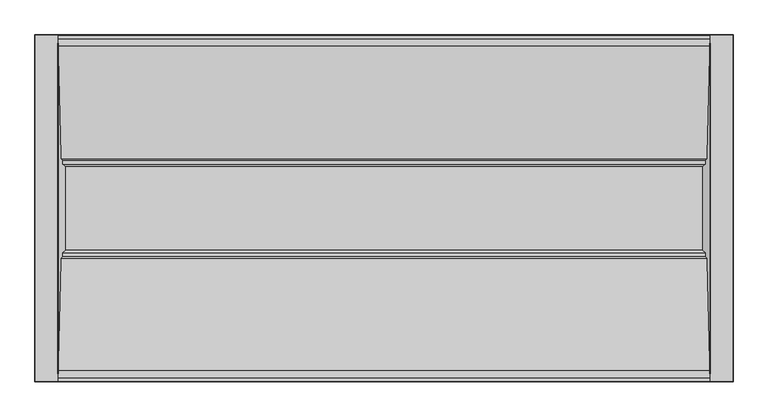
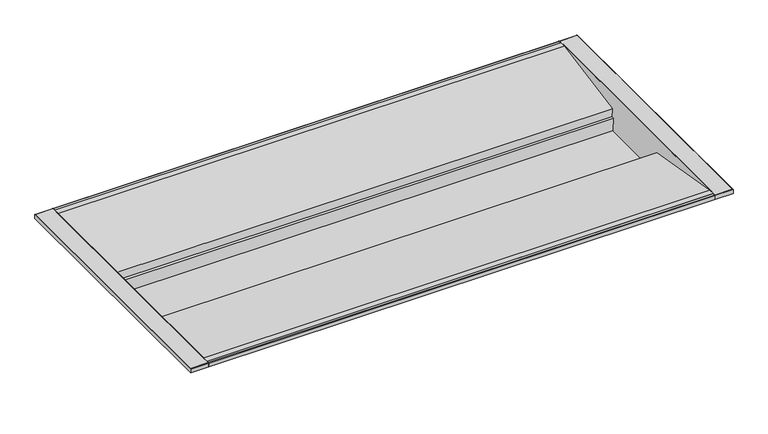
"""IFC4 building model written with IfcOpenShell, lengths in millimetres: light fixture geometry."""

from ifc_helpers import new_model, si_unit, frame, origin, place, context, project, spatial, circle_curve, ellipse_curve, faceted_brep, source, transform, mapped, element, save
from ifc_brep_helpers import plane_surface, cylinder_surface, advanced_brep


def light_fixture_a56094d9(model_context):
    return source(origin(), model_context, "Body", "SolidModel", [
        advanced_brep(
        [(566.0976563, 298.6700005, -0.79375), (566.0976563, 304.2262505, -0.79375), (566.0976563, 304.2262505, -10.0), (566.0976563, 305.0200005, -10.0), (566.0976563, 305.0200005, -0.8929688), (566.0976563, 304.1270317, 0.0), (566.0976563, 298.6700005, 0.0), (-566.0976562, 298.6700005, -0.79375), (-566.0976562, 298.6700005, 0.0), (-566.0976562, 304.1270317, 0.0), (-566.0976562, 305.0200005, -0.8929688), (-566.0976562, 305.0200005, -10.0), (-566.0976562, 304.2262505, -10.0), (-566.0976562, 304.2262505, -0.79375), (-546.0976562, 304.2262505, -10.0), (-546.0976562, 304.2262505, -9.20625), (546.0976563, 304.2262505, -9.20625), (546.0976563, 304.2262505, -10.0), (546.0976563, 298.1950005, -10.0), (542.9226563, 295.0200005, -10.0), (-542.9226562, 295.0200005, -10.0), (-546.0976562, 298.1950005, -10.0), (-546.0976562, 298.1950005, -9.20625), (-542.9226562, 295.0200005, -9.20625), (542.9226563, 295.0200005, -9.20625), (546.0976563, 298.1950005, -9.20625)],
        [
            (0, 1),
            (1, 2),
            (2, 3),
            (3, 4),
            (4, 5, circle_curve(frame((566.0976563, 304.1270317, -0.8929688), z_axis=(1.0, 0.0, 0.0), x_axis=(0.0, 1.0, 0.0)), 0.8929688)),
            (5, 6),
            (6, 0),
            (7, 8),
            (8, 9),
            (9, 10, circle_curve(frame((-566.0976562, 304.1270317, -0.8929688), z_axis=(-1.0, 0.0, 0.0), x_axis=(0.0, 1.0, 0.0)), 0.8929688)),
            (10, 11),
            (11, 12),
            (12, 13),
            (13, 7),
            (0, 7),
            (13, 1),
            (12, 14),
            (14, 15),
            (15, 16),
            (16, 17),
            (17, 2),
            (17, 18),
            (18, 19, circle_curve(frame((542.9226563, 298.1950005, -10.0), z_axis=(0.0, 0.0, -1.0), x_axis=(1.0, 0.0, 0.0)), 3.175)),
            (19, 20),
            (20, 21, circle_curve(frame((-542.9226562, 298.1950005, -10.0), z_axis=(0.0, 0.0, -1.0), x_axis=(1.0, 0.0, 0.0)), 3.175)),
            (21, 14),
            (11, 3),
            (10, 4),
            (9, 5),
            (8, 6),
            (22, 23, circle_curve(frame((-542.9226562, 298.1950005, -9.20625), z_axis=(0.0, 0.0, 1.0), x_axis=(1.0, 0.0, 0.0)), 3.175)),
            (23, 24),
            (24, 25, circle_curve(frame((542.9226563, 298.1950005, -9.20625), z_axis=(0.0, 0.0, 1.0), x_axis=(1.0, 0.0, 0.0)), 3.175)),
            (25, 16),
            (15, 22),
            (19, 24),
            (23, 20),
            (25, 18),
            (21, 22),
        ],
        [
            plane_surface(frame((566.0976563, 304.2262505, -0.79375), z_axis=(1.0, 0.0, 0.0), x_axis=(0.0, 1.0, 0.0))),
            plane_surface(frame((-566.0976562, 304.2262505, -0.79375), z_axis=(-1.0, 0.0, 0.0), x_axis=(0.0, -1.0, 0.0))),
            plane_surface(frame((566.0976563, 298.6700005, -0.79375), z_axis=(0.0, 0.0, -1.0), x_axis=(-1.0, 0.0, 0.0))),
            plane_surface(frame((566.0976563, 304.2262505, -0.79375), z_axis=(0.0, -1.0, 0.0), x_axis=(-1.0, 0.0, 0.0))),
            plane_surface(frame((566.0976563, 304.2262505, -10.0), z_axis=(0.0, 0.0, -1.0), x_axis=(-1.0, 0.0, 0.0))),
            plane_surface(frame((566.0976563, 305.0200005, -10.0), z_axis=(0.0, 1.0, 0.0), x_axis=(-1.0, 0.0, 0.0))),
            cylinder_surface(frame((-566.0976562, 304.1270317, -0.8929688), z_axis=(1.0, 0.0, 0.0), x_axis=(0.0, 1.0, 0.0)), 0.8929688),
            plane_surface(frame((566.0976563, 304.1270317, 0.0), z_axis=(0.0, 0.0, 1.0), x_axis=(-1.0, 0.0, 0.0))),
            plane_surface(frame((566.0976563, 298.6700005, 0.0), z_axis=(0.0, -1.0, 0.0), x_axis=(-1.0, 0.0, 0.0))),
            plane_surface(frame((-539.7476562, 298.1950005, -9.20625), z_axis=(0.0, 0.0, 1.0), x_axis=(0.0, 1.0, 0.0))),
            plane_surface(frame((-542.9226562, 295.0200005, -9.20625), z_axis=(0.0, -1.0, 0.0), x_axis=(0.0, 0.0, -1.0))),
            plane_surface(frame((546.0976563, 298.1950005, -9.20625), z_axis=(1.0, 0.0, 0.0), x_axis=(0.0, 0.0, -1.0))),
            plane_surface(frame((-546.0976562, 305.0200005, -9.20625), z_axis=(-1.0, 0.0, 0.0), x_axis=(0.0, 0.0, -1.0))),
            cylinder_surface(frame((-542.9226562, 298.1950005, -10.0), z_axis=(0.0, 0.0, 1.0), x_axis=(1.0, 0.0, 0.0)), 3.175),
            cylinder_surface(frame((542.9226563, 298.1950005, -10.0), z_axis=(0.0, 0.0, 1.0), x_axis=(1.0, 0.0, 0.0)), 3.175),
        ],
        [
            (0, [[1, 2, 3, 4, 5, 6, 7]]),
            (1, [[8, 9, 10, 11, 12, 13, 14]]),
            (2, [[-1, 15, -14, 16]]),
            (3, [[-2, -16, -13, 17, 18, 19, 20, 21]]),
            (4, [[-3, -21, 22, 23, 24, 25, 26, -17, -12, 27]]),
            (5, [[-4, -27, -11, 28]]),
            (6, [[-5, -28, -10, 29]]),
            (7, [[-6, -29, -9, 30]]),
            (8, [[-7, -30, -8, -15]]),
            (9, [[31, 32, 33, 34, -19, 35]]),
            (10, [[-24, 36, -32, 37]]),
            (11, [[38, -22, -20, -34]]),
            (12, [[39, -35, -18, -26]]),
            (13, [[-25, -37, -31, -39]]),
            (14, [[-23, -38, -33, -36]]),
        ],
    ),
        advanced_brep(
        [(566.0976563, -291.5823433, -0.79375), (566.0976563, -291.5823433, 0.0), (566.0976563, -297.0393745, 0.0), (566.0976563, -297.9323433, -0.8929688), (566.0976563, -297.9323433, -10.0), (566.0976563, -297.1385933, -10.0), (566.0976563, -297.1385933, -0.79375), (-566.0976562, -291.5823433, -0.79375), (-566.0976562, -297.1385933, -0.79375), (-566.0976562, -297.1385933, -10.0), (-566.0976562, -297.9323433, -10.0), (-566.0976562, -297.9323433, -0.8929688), (-566.0976562, -297.0393745, 0.0), (-566.0976562, -291.5823433, 0.0), (-546.0976562, -291.1073433, -10.0), (-542.9226562, -287.9323433, -10.0), (542.9226563, -287.9323433, -10.0), (546.0976563, -291.1073433, -10.0), (546.0976563, -297.1385933, -10.0), (-546.0976562, -297.1385933, -10.0), (546.0976563, -297.1385933, -9.20625), (-546.0976562, -297.1385933, -9.20625), (546.0976563, -291.1073433, -9.20625), (542.9226563, -287.9323433, -9.20625), (-542.9226562, -287.9323433, -9.20625), (-546.0976562, -291.1073433, -9.20625)],
        [
            (0, 1),
            (1, 2),
            (2, 3, circle_curve(frame((566.0976563, -297.0393745, -0.8929688), z_axis=(1.0, 0.0, 0.0), x_axis=(0.0, 1.0, 0.0)), 0.8929688)),
            (3, 4),
            (4, 5),
            (5, 6),
            (6, 0),
            (7, 8),
            (8, 9),
            (9, 10),
            (10, 11),
            (11, 12, circle_curve(frame((-566.0976562, -297.0393745, -0.8929688), z_axis=(-1.0, 0.0, 0.0), x_axis=(0.0, 1.0, 0.0)), 0.8929688)),
            (12, 13),
            (13, 7),
            (14, 15, circle_curve(frame((-542.9226562, -291.1073433, -10.0), z_axis=(0.0, 0.0, -1.0), x_axis=(1.0, 0.0, 0.0)), 3.175)),
            (15, 16),
            (16, 17, circle_curve(frame((542.9226563, -291.1073433, -10.0), z_axis=(0.0, 0.0, -1.0), x_axis=(1.0, 0.0, 0.0)), 3.175)),
            (17, 18),
            (18, 5),
            (4, 10),
            (9, 19),
            (19, 14),
            (0, 7),
            (13, 1),
            (12, 2),
            (11, 3),
            (18, 20),
            (20, 21),
            (21, 19),
            (8, 6),
            (22, 23, circle_curve(frame((542.9226563, -291.1073433, -9.20625), z_axis=(0.0, 0.0, 1.0), x_axis=(1.0, 0.0, 0.0)), 3.175)),
            (23, 24),
            (24, 25, circle_curve(frame((-542.9226562, -291.1073433, -9.20625), z_axis=(0.0, 0.0, 1.0), x_axis=(1.0, 0.0, 0.0)), 3.175)),
            (25, 21),
            (20, 22),
            (25, 14),
            (17, 22),
            (16, 23),
            (15, 24),
        ],
        [
            plane_surface(frame((566.0976563, 304.2262505, -0.79375), z_axis=(1.0, 0.0, 0.0), x_axis=(0.0, 1.0, 0.0))),
            plane_surface(frame((-566.0976562, 304.2262505, -0.79375), z_axis=(-1.0, 0.0, 0.0), x_axis=(0.0, -1.0, 0.0))),
            plane_surface(frame((566.0976563, 304.2262505, -10.0), z_axis=(0.0, 0.0, -1.0), x_axis=(-1.0, 0.0, 0.0))),
            plane_surface(frame((566.0976563, -291.5823433, -0.79375), z_axis=(0.0, 1.0, 0.0), x_axis=(-1.0, 0.0, 0.0))),
            plane_surface(frame((566.0976563, -291.5823433, 0.0), z_axis=(0.0, 0.0, 1.0), x_axis=(-1.0, 0.0, 0.0))),
            cylinder_surface(frame((0.0, -297.0393745, -0.8929688), z_axis=(1.0, 0.0, 0.0), x_axis=(0.0, 1.0, 0.0)), 0.8929688),
            plane_surface(frame((566.0976563, -297.9323433, -0.8929688), z_axis=(0.0, -1.0, 0.0), x_axis=(-1.0, 0.0, 0.0))),
            plane_surface(frame((566.0976563, -297.1385933, -10.0), z_axis=(0.0, 1.0, 0.0), x_axis=(-1.0, 0.0, 0.0))),
            plane_surface(frame((566.0976563, -297.1385933, -0.79375), z_axis=(0.0, 0.0, -1.0), x_axis=(-1.0, 0.0, 0.0))),
            plane_surface(frame((-539.7476562, 298.1950005, -9.20625), z_axis=(0.0, 0.0, 1.0), x_axis=(0.0, 1.0, 0.0))),
            plane_surface(frame((-546.0976562, -291.1073433, -9.20625), z_axis=(-1.0, 0.0, 0.0), x_axis=(0.0, 0.0, -1.0))),
            plane_surface(frame((546.0976563, -297.9323433, -9.20625), z_axis=(1.0, 0.0, 0.0), x_axis=(0.0, 0.0, -1.0))),
            cylinder_surface(frame((542.9226563, -291.1073433, 0.0), z_axis=(0.0, 0.0, 1.0), x_axis=(1.0, 0.0, 0.0)), 3.175),
            plane_surface(frame((542.9226563, -287.9323433, -9.20625), z_axis=(0.0, 1.0, 0.0), x_axis=(0.0, 0.0, -1.0))),
            cylinder_surface(frame((-542.9226562, -291.1073433, 0.0), z_axis=(0.0, 0.0, 1.0), x_axis=(1.0, 0.0, 0.0)), 3.175),
        ],
        [
            (0, [[1, 2, 3, 4, 5, 6, 7]]),
            (1, [[8, 9, 10, 11, 12, 13, 14]]),
            (2, [[15, 16, 17, 18, 19, -5, 20, -10, 21, 22]]),
            (3, [[-1, 23, -14, 24]]),
            (4, [[-2, -24, -13, 25]]),
            (5, [[-3, -25, -12, 26]]),
            (6, [[-20, -4, -26, -11]]),
            (7, [[-6, -19, 27, 28, 29, -21, -9, 30]]),
            (8, [[-7, -30, -8, -23]]),
            (9, [[31, 32, 33, 34, -28, 35]]),
            (10, [[36, -22, -29, -34]]),
            (11, [[37, -35, -27, -18]]),
            (12, [[-17, 38, -31, -37]]),
            (13, [[-16, 39, -32, -38]]),
            (14, [[-15, -36, -33, -39]]),
        ],
    ),
        advanced_brep(
        [(-566.0985566, -283.5477848, 0.0), (-566.0985566, 290.635442, 0.0), (-566.9045515, 290.635442, 0.0), (-566.9045515, -283.5477848, 0.0), (-561.843246, 90.4756735, -28.7040897), (-559.0062048, 87.6386322, -44.79375), (-559.0062048, 81.2943654, -44.79375), (-554.4570278, 76.7451884, -70.5934151), (-554.4570278, -69.6575312, -70.5934151), (-559.0062048, -74.2067082, -44.79375), (-559.0062048, -80.550975, -44.79375), (-561.843246, -83.3880163, -28.7040897), (-553.5693308, 76.6138484, -71.3382812), (-553.5693308, -69.5261912, -71.3382812), (-544.0014676, 76.6138484, -71.3382813), (-544.0014676, -69.5261912, -71.3382813), (-544.0014676, 76.7538079, -70.5445312), (-544.0014676, -69.6661507, -70.5445312), (-553.6596524, 76.7538079, -70.5445312), (-553.6596524, -69.6661507, -70.5445312), (-561.0372511, -83.3880163, -28.7040897), (-558.2002099, -80.550975, -44.79375), (-558.2002099, -74.2067082, -44.79375), (-558.2002099, 81.2943654, -44.79375), (-558.2002099, 87.6386322, -44.79375), (-561.0372511, 90.4756735, -28.7040897)],
        [
            (0, 1),
            (1, 2),
            (2, 3),
            (3, 0),
            (2, 4),
            (4, 5),
            (5, 6),
            (6, 7),
            (7, 8),
            (8, 9),
            (9, 10),
            (10, 11),
            (11, 3),
            (7, 12, ellipse_curve(frame((-553.5693308, 76.772788, -70.4368902), z_axis=(0.0, -0.9848077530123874, 0.17364817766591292), x_axis=(0.0, -0.17364817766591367, -0.9848077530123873)), 0.9152965, 0.9013911)),
            (12, 13),
            (13, 8, ellipse_curve(frame((-553.5693308, -69.6851307, -70.4368902), z_axis=(0.0, 0.9848077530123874, 0.17364817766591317), x_axis=(0.0, -0.17364817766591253, 0.9848077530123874)), 0.9152965, 0.9013911)),
            (12, 14),
            (14, 15),
            (15, 13),
            (14, 16),
            (16, 17),
            (17, 15),
            (16, 18),
            (18, 19),
            (19, 17),
            (0, 20),
            (20, 21),
            (21, 22),
            (22, 19),
            (18, 23),
            (23, 24),
            (24, 25),
            (25, 1),
            (6, 23),
            (25, 4),
            (24, 5),
            (22, 9),
            (21, 10),
            (20, 11),
        ],
        [
            plane_surface(frame((-566.0985566, -297.9323433, 0.0), z_axis=(0.0, 0.0, 1.0), x_axis=(0.0, 1.0, 0.0))),
            plane_surface(frame((-566.9045515, -297.9323433, 0.0), z_axis=(-0.9848077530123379, 0.0, -0.17364817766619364), x_axis=(0.0, 1.0, 0.0))),
            cylinder_surface(frame((-553.5693308, 305.0200005, -70.4368902), z_axis=(0.0, -1.0, 0.0), x_axis=(1.0, 0.0, 0.0)), 0.9013911),
            plane_surface(frame((-553.5693308, -297.9323433, -71.3382812), z_axis=(-6.60762254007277e-12, 0.0, -1.0), x_axis=(0.0, 1.0, 0.0))),
            plane_surface(frame((-544.0014676, -297.9323433, -71.3382813), z_axis=(1.0, 0.0, 0.0), x_axis=(0.0, 1.0, 0.0))),
            plane_surface(frame((-544.0014676, -297.9323433, -70.5445312), z_axis=(0.0, 0.0, 1.0), x_axis=(0.0, 1.0, 0.0))),
            plane_surface(frame((-553.6596524, -297.9323433, -70.5445312), z_axis=(0.9848077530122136, 0.0, 0.17364817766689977), x_axis=(0.0, 1.0, 0.0))),
            plane_surface(frame((606.5738281, 81.2943654, -44.79375), z_axis=(0.0, 0.9848077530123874, -0.17364817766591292), x_axis=(-1.0, 0.0, 0.0))),
            plane_surface(frame((606.5738281, 290.635442, 0.0), z_axis=(0.0, 0.14195366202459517, -0.9898733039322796), x_axis=(-1.0, 0.0, 0.0))),
            plane_surface(frame((606.5738281, 90.4756735, -28.7040897), z_axis=(0.0, 0.9848077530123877, -0.1736481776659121), x_axis=(-1.0, 0.0, 0.0))),
            plane_surface(frame((606.5738281, 87.6386322, -44.79375), z_axis=(0.0, 1.005437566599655e-12, -1.0), x_axis=(-1.0, 0.0, 0.0))),
            plane_surface(frame((606.5738281, -69.5261912, -71.3382813), z_axis=(0.0, -0.9848077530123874, -0.17364817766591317), x_axis=(-1.0, 0.0, 0.0))),
            plane_surface(frame((606.5738281, -74.2067082, -44.79375), z_axis=(0.0, -1.0054375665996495e-12, -1.0), x_axis=(-1.0, 0.0, 0.0))),
            plane_surface(frame((606.5738281, -80.550975, -44.79375), z_axis=(0.0, -0.9848077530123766, -0.17364817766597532), x_axis=(-1.0, 0.0, 0.0))),
            plane_surface(frame((606.5738281, -83.3880163, -28.7040897), z_axis=(0.0, -0.14195366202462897, -0.9898733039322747), x_axis=(-1.0, 0.0, 0.0))),
        ],
        [
            (0, [[1, 2, 3, 4]]),
            (1, [[-3, 5, 6, 7, 8, 9, 10, 11, 12, 13]]),
            (2, [[-9, 14, 15, 16]]),
            (3, [[-15, 17, 18, 19]]),
            (4, [[-18, 20, 21, 22]]),
            (5, [[-21, 23, 24, 25]]),
            (6, [[-1, 26, 27, 28, 29, -24, 30, 31, 32, 33]]),
            (7, [[34, -30, -23, -20, -17, -14, -8]]),
            (8, [[35, -5, -2, -33]]),
            (9, [[-35, -32, 36, -6]]),
            (10, [[-34, -7, -36, -31]]),
            (11, [[37, -10, -16, -19, -22, -25, -29]]),
            (12, [[-37, -28, 38, -11]]),
            (13, [[-38, -27, 39, -12]]),
            (14, [[-39, -26, -4, -13]]),
        ],
    ),
        advanced_brep(
        [(566.0985566, -283.5477848, 0.0), (566.0985566, 290.635442, 0.0), (561.0372511, 90.4756735, -28.7040897), (558.2002099, 87.6386322, -44.79375), (558.2002099, 81.2943654, -44.79375), (553.6596524, 76.7538079, -70.5445312), (553.6596524, -69.6661507, -70.5445312), (558.2002099, -74.2067082, -44.79375), (558.2002099, -80.550975, -44.79375), (561.0372511, -83.3880163, -28.7040897), (544.0014676, 76.7538079, -70.5445312), (544.0014676, -69.6661507, -70.5445312), (544.0014676, 76.6138484, -71.3382813), (544.0014676, -69.5261912, -71.3382813), (553.5693308, 76.6138484, -71.3382812), (553.5693308, -69.5261912, -71.3382812), (554.4570278, 76.7451884, -70.5934151), (554.4570278, -69.6575312, -70.5934151), (559.0062048, 81.2943654, -44.79375), (559.0062048, 87.6386322, -44.79375), (561.843246, 90.4756735, -28.7040897), (566.9045515, 290.635442, 0.0), (566.9045515, -283.5477848, 0.0), (561.843246, -83.3880163, -28.7040897), (559.0062048, -80.550975, -44.79375), (559.0062048, -74.2067082, -44.79375)],
        [
            (0, 1),
            (1, 2),
            (2, 3),
            (3, 4),
            (4, 5),
            (5, 6),
            (6, 7),
            (7, 8),
            (8, 9),
            (9, 0),
            (5, 10),
            (10, 11),
            (11, 6),
            (10, 12),
            (12, 13),
            (13, 11),
            (12, 14),
            (14, 15),
            (15, 13),
            (14, 16, ellipse_curve(frame((553.5693308, 76.772788, -70.4368902), z_axis=(0.0, -0.9848077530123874, 0.17364817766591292), x_axis=(0.0, -0.17364817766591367, -0.9848077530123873)), 0.9152965, 0.9013911)),
            (16, 17),
            (17, 15, ellipse_curve(frame((553.5693308, -69.6851307, -70.4368902), z_axis=(0.0, 0.9848077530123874, 0.17364817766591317), x_axis=(0.0, -0.17364817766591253, 0.9848077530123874)), 0.9152965, 0.9013911)),
            (16, 18),
            (18, 19),
            (19, 20),
            (20, 21),
            (21, 22),
            (22, 23),
            (23, 24),
            (24, 25),
            (25, 17),
            (0, 22),
            (21, 1),
            (4, 18),
            (20, 2),
            (19, 3),
            (25, 7),
            (24, 8),
            (23, 9),
        ],
        [
            plane_surface(frame((566.0985566, -297.9323433, 0.0), z_axis=(-0.9848077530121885, 0.0, 0.17364817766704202), x_axis=(0.0, 1.0, 0.0))),
            plane_surface(frame((553.6596524, -297.9323433, -70.5445312), z_axis=(0.0, 0.0, 1.0), x_axis=(0.0, 1.0, 0.0))),
            plane_surface(frame((544.0014676, -297.9323433, -70.5445312), z_axis=(-1.0, 0.0, 0.0), x_axis=(0.0, 1.0, 0.0))),
            plane_surface(frame((544.0014676, -297.9323433, -71.3382813), z_axis=(6.607622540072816e-12, 0.0, -1.0), x_axis=(0.0, 1.0, 0.0))),
            cylinder_surface(frame((553.5693308, 3.5438286, -70.4368902), z_axis=(0.0, -1.0, 0.0), x_axis=(1.0, 0.0, 0.0)), 0.9013911),
            plane_surface(frame((554.4570278, -297.9323433, -70.5934151), z_axis=(0.9848077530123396, 0.0, -0.17364817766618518), x_axis=(0.0, 1.0, 0.0))),
            plane_surface(frame((566.9045515, -297.9323433, 0.0), z_axis=(0.0, 0.0, 1.0), x_axis=(0.0, 1.0, 0.0))),
            plane_surface(frame((606.5738281, 81.2943654, -44.79375), z_axis=(0.0, 0.9848077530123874, -0.17364817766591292), x_axis=(-1.0, 0.0, 0.0))),
            plane_surface(frame((606.5738281, 290.635442, 0.0), z_axis=(0.0, 0.14195366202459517, -0.9898733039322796), x_axis=(-1.0, 0.0, 0.0))),
            plane_surface(frame((606.5738281, 90.4756735, -28.7040897), z_axis=(0.0, 0.9848077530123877, -0.1736481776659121), x_axis=(-1.0, 0.0, 0.0))),
            plane_surface(frame((606.5738281, 87.6386322, -44.79375), z_axis=(0.0, 1.005437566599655e-12, -1.0), x_axis=(-1.0, 0.0, 0.0))),
            plane_surface(frame((606.5738281, -69.5261912, -71.3382813), z_axis=(0.0, -0.9848077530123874, -0.17364817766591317), x_axis=(-1.0, 0.0, 0.0))),
            plane_surface(frame((606.5738281, -74.2067082, -44.79375), z_axis=(0.0, -1.0054375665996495e-12, -1.0), x_axis=(-1.0, 0.0, 0.0))),
            plane_surface(frame((606.5738281, -80.550975, -44.79375), z_axis=(0.0, -0.9848077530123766, -0.17364817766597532), x_axis=(-1.0, 0.0, 0.0))),
            plane_surface(frame((606.5738281, -83.3880163, -28.7040897), z_axis=(0.0, -0.14195366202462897, -0.9898733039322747), x_axis=(-1.0, 0.0, 0.0))),
        ],
        [
            (0, [[1, 2, 3, 4, 5, 6, 7, 8, 9, 10]]),
            (1, [[-6, 11, 12, 13]]),
            (2, [[-12, 14, 15, 16]]),
            (3, [[-15, 17, 18, 19]]),
            (4, [[-18, 20, 21, 22]]),
            (5, [[-21, 23, 24, 25, 26, 27, 28, 29, 30, 31]]),
            (6, [[-1, 32, -27, 33]]),
            (7, [[34, -23, -20, -17, -14, -11, -5]]),
            (8, [[35, -2, -33, -26]]),
            (9, [[-35, -25, 36, -3]]),
            (10, [[-34, -4, -36, -24]]),
            (11, [[37, -7, -13, -16, -19, -22, -31]]),
            (12, [[-37, -30, 38, -8]]),
            (13, [[-38, -29, 39, -9]]),
            (14, [[-39, -28, -32, -10]]),
        ],
    ),
        faceted_brep([(566.0985566, 285.0438286, 0.0), (-566.0985566, 285.0438286, 0.0), (-561.1614012, 89.7938286, -28.0), (561.1614012, 89.7938286, -28.0), (-558.3401695, 86.9725969, -44.0), (558.3401695, 86.9725969, -44.0), (-558.3401695, 80.6283301, -44.0), (558.3401695, 80.6283301, -44.0), (-553.799612, 76.0877726, -69.7507812), (553.799612, 76.0877726, -69.7507813), (-553.799612, -69.0001154, -69.7507812), (553.799612, -69.0001154, -69.7507813), (-558.3401695, -73.5406729, -44.0), (558.3401695, -73.5406729, -44.0), (-558.3401695, -79.8849397, -44.0), (558.3401695, -79.8849397, -44.0), (-561.1614012, -82.7061714, -28.0), (561.1614012, -82.7061714, -28.0), (-566.0985566, -277.9561714, 0.0), (566.0985566, -277.9561714, 0.0), (-566.0985566, -291.5823433, 0.0), (566.0985566, -291.5823433, 0.0), (-565.9585971, -291.5823433, -0.79375), (565.9585971, -291.5823433, -0.79375), (-565.9585971, -278.012796, -0.79375), (565.9585971, -278.012796, -0.79375), (-561.0372511, -83.3880163, -28.7040897), (561.0372511, -83.3880163, -28.7040897), (-558.2002099, -80.550975, -44.79375), (558.2002099, -80.550975, -44.79375), (-558.2002099, -74.2067082, -44.79375), (558.2002099, -74.2067082, -44.79375), (-553.6596524, -69.6661507, -70.5445312), (553.6596524, -69.6661507, -70.5445313), (-553.6596524, 76.7538079, -70.5445312), (553.6596524, 76.7538079, -70.5445313), (-558.2002099, 81.2943654, -44.79375), (558.2002099, 81.2943654, -44.79375), (-558.2002099, 87.6386322, -44.79375), (558.2002099, 87.6386322, -44.79375), (-561.0372511, 90.4756735, -28.7040897), (561.0372511, 90.4756735, -28.7040897), (-565.9585971, 285.1004532, -0.79375), (565.9585971, 285.1004532, -0.79375), (-565.9585971, 298.6700005, -0.79375), (565.9585971, 298.6700005, -0.79375), (-566.0985566, 298.6700005, 0.0), (566.0985566, 298.6700005, 0.0)], [[[0, 1, 2, 3]], [[3, 2, 4, 5]], [[5, 4, 6, 7]], [[7, 6, 8, 9]], [[9, 8, 10, 11]], [[11, 10, 12, 13]], [[13, 12, 14, 15]], [[15, 14, 16, 17]], [[17, 16, 18, 19]], [[19, 18, 20, 21]], [[21, 20, 22, 23]], [[23, 22, 24, 25]], [[25, 24, 26, 27]], [[27, 26, 28, 29]], [[29, 28, 30, 31]], [[31, 30, 32, 33]], [[33, 32, 34, 35]], [[35, 34, 36, 37]], [[37, 36, 38, 39]], [[39, 38, 40, 41]], [[41, 40, 42, 43]], [[43, 42, 44, 45]], [[45, 44, 46, 47]], [[1, 0, 47, 46]], [[2, 1, 46, 44, 42, 40, 38, 36, 34, 32, 30, 28, 26, 24, 22, 20, 18, 16, 14, 12, 10, 8, 6, 4]], [[0, 3, 5, 7, 9, 11, 13, 15, 17, 19, 21, 23, 25, 27, 29, 31, 33, 35, 37, 39, 41, 43, 45, 47]]]),
        advanced_brep(
        [(-566.0976562, 304.2262505, -0.79375), (-566.0976562, 304.2262505, -10.0), (-566.0976562, 305.0200005, -10.0), (-566.0976562, 305.0200005, -0.8929688), (-566.0976562, 304.1270317, 0.0), (-566.0976562, -297.0393745, 0.0), (-566.0976562, -297.9323433, -0.8929688), (-566.0976562, -297.9323433, -10.0), (-566.0976562, -297.1385933, -10.0), (-566.0976562, -297.1385933, -0.79375), (-605.7800781, 304.2262505, -10.0), (-605.7800781, -297.1385933, -10.0), (-606.5738281, -297.9323433, -10.0), (-606.5738281, 305.0200005, -10.0), (-606.5738281, 305.0200005, -0.8929688), (-605.6808594, 304.1270317, 0.0), (-605.6808594, -297.0393745, 0.0), (-606.5738281, -297.9323433, -0.8929688), (-605.7800781, -297.1385933, -0.79375), (-605.7800781, 304.2262505, -0.79375)],
        [
            (0, 1),
            (1, 2),
            (2, 3),
            (3, 4, circle_curve(frame((-566.0976562, 304.1270317, -0.8929688), z_axis=(1.0, 0.0, 0.0), x_axis=(0.0, -1.0, 0.0)), 0.8929687)),
            (4, 5),
            (5, 6, circle_curve(frame((-566.0976562, -297.0393745, -0.8929688), z_axis=(1.0, 0.0, 0.0), x_axis=(0.0, 1.0, 0.0)), 0.8929688)),
            (6, 7),
            (7, 8),
            (8, 9),
            (9, 0),
            (1, 10),
            (10, 11),
            (11, 8),
            (7, 12),
            (12, 13),
            (13, 2),
            (13, 14),
            (14, 3),
            (4, 15),
            (15, 16),
            (16, 5),
            (12, 17),
            (17, 14),
            (6, 17),
            (9, 18),
            (18, 19),
            (19, 0),
            (19, 10),
            (14, 15, ellipse_curve(frame((-605.6808594, 304.1270317, -0.8929688), z_axis=(0.7071067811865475, 0.7071067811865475, 0.0), x_axis=(0.7071067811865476, -0.7071067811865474, 0.0)), 1.2628485, 0.8929688)),
            (18, 11),
            (17, 16, ellipse_curve(frame((-605.6808594, -297.0393745, -0.8929688), z_axis=(-0.7071067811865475, 0.7071067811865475, 0.0), x_axis=(0.7071067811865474, 0.7071067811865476, 0.0)), 1.2628485, 0.8929688)),
        ],
        [
            plane_surface(frame((-566.0976562, 305.0200005, 0.0), z_axis=(1.0, 0.0, 0.0), x_axis=(0.0, 0.0, 1.0))),
            plane_surface(frame((-566.0976562, 304.2262505, -10.0), z_axis=(0.0, 0.0, -1.0), x_axis=(-1.0, 0.0, 0.0))),
            plane_surface(frame((-566.0976562, 305.0200005, -10.0), z_axis=(0.0, 1.0, 0.0), x_axis=(-1.0, 0.0, 0.0))),
            plane_surface(frame((-566.0976562, 304.1270317, 0.0), z_axis=(0.0, 0.0, 1.0), x_axis=(-1.0, 0.0, 0.0))),
            plane_surface(frame((-606.5738281, 305.0200005, -10.0), z_axis=(-1.0, 0.0, 0.0), x_axis=(0.0, -1.0, 0.0))),
            plane_surface(frame((-606.5738281, -297.9323433, -10.0), z_axis=(0.0, -1.0, 0.0), x_axis=(1.0, 0.0, 0.0))),
            plane_surface(frame((-566.0976562, 301.8450005, -0.79375), z_axis=(0.0, 0.0, -1.0), x_axis=(-1.0, 0.0, 0.0))),
            plane_surface(frame((-566.0976562, 304.2262505, -0.79375), z_axis=(0.0, -1.0, 0.0), x_axis=(-1.0, 0.0, 0.0))),
            cylinder_surface(frame((-566.0976562, 304.1270317, -0.8929688), z_axis=(1.0, 0.0, 0.0), x_axis=(0.0, -1.0, 0.0)), 0.8929688),
            plane_surface(frame((-605.7800781, 304.2262505, -0.79375), z_axis=(1.0, 0.0, 0.0), x_axis=(0.0, -1.0, 0.0))),
            cylinder_surface(frame((-605.6808594, 305.0200005, -0.8929688), z_axis=(0.0, 1.0, 0.0), x_axis=(1.0, 0.0, 0.0)), 0.8929688),
            plane_surface(frame((-605.7800781, -297.1385933, -0.79375), z_axis=(0.0, 1.0, 0.0), x_axis=(1.0, 0.0, 0.0))),
            cylinder_surface(frame((-606.5738281, -297.0393745, -0.8929688), z_axis=(-1.0, 0.0, 0.0), x_axis=(0.0, 1.0, 0.0)), 0.8929688),
        ],
        [
            (0, [[1, 2, 3, 4, 5, 6, 7, 8, 9, 10]]),
            (1, [[-2, 11, 12, 13, -8, 14, 15, 16]]),
            (2, [[-3, -16, 17, 18]]),
            (3, [[19, 20, 21, -5]]),
            (4, [[-15, 22, 23, -17]]),
            (5, [[-14, -7, 24, -22]]),
            (6, [[25, 26, 27, -10]]),
            (7, [[-1, -27, 28, -11]]),
            (8, [[-4, -18, 29, -19]]),
            (9, [[-12, -28, -26, 30]]),
            (10, [[-20, -29, -23, 31]]),
            (11, [[-13, -30, -25, -9]]),
            (12, [[-21, -31, -24, -6]]),
        ],
    ),
        advanced_brep(
        [(566.0976563, -297.0393745, 0.0), (605.6808594, -297.0393745, 0.0), (605.6808594, 304.1270317, 0.0), (566.0976563, 304.1270317, 0.0), (566.0976563, 304.2262505, -0.79375), (605.7800781, 304.2262505, -0.79375), (605.7800781, -297.1385933, -0.79375), (566.0976563, -297.1385933, -0.79375), (566.0976563, 305.0200005, -0.8929688), (566.0976563, 305.0200005, -10.0), (566.0976563, 304.2262505, -10.0), (566.0976563, -297.1385933, -10.0), (566.0976563, -297.9323433, -10.0), (566.0976563, -297.9323433, -0.8929688), (606.5738281, 305.0200005, -10.0), (606.5738281, -297.9323433, -10.0), (605.7800781, -297.1385933, -10.0), (605.7800781, 304.2262505, -10.0), (606.5738281, 305.0200005, -0.8929688), (606.5738281, -297.9323433, -0.8929688)],
        [
            (0, 1),
            (1, 2),
            (2, 3),
            (3, 0),
            (4, 5),
            (5, 6),
            (6, 7),
            (7, 4),
            (3, 8, circle_curve(frame((566.0976563, 304.1270317, -0.8929688), z_axis=(-1.0, 0.0, 0.0), x_axis=(0.0, 1.0, 0.0)), 0.8929688)),
            (8, 9),
            (9, 10),
            (10, 4),
            (7, 11),
            (11, 12),
            (12, 13),
            (13, 0, circle_curve(frame((566.0976563, -297.0393745, -0.8929688), z_axis=(-1.0, 0.0, 0.0), x_axis=(0.0, -1.0, 0.0)), 0.8929688)),
            (9, 14),
            (14, 15),
            (15, 12),
            (11, 16),
            (16, 17),
            (17, 10),
            (8, 18),
            (18, 14),
            (18, 19),
            (19, 15),
            (19, 13),
            (17, 5),
            (2, 18, ellipse_curve(frame((605.6808594, 304.1270317, -0.8929688), z_axis=(-0.7071067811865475, 0.7071067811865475, 0.0), x_axis=(-0.7071067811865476, -0.7071067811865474, 0.0)), 1.2628485, 0.8929688)),
            (16, 6),
            (1, 19, ellipse_curve(frame((605.6808594, -297.0393745, -0.8929688), z_axis=(0.7071067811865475, 0.7071067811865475, 0.0), x_axis=(-0.7071067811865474, 0.7071067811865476, 0.0)), 1.2628485, 0.8929688)),
        ],
        [
            plane_surface(frame((-566.0976562, 304.1270317, 0.0), z_axis=(0.0, 0.0, 1.0), x_axis=(-1.0, 0.0, 0.0))),
            plane_surface(frame((-566.0976562, 301.8450005, -0.79375), z_axis=(0.0, 0.0, -1.0), x_axis=(-1.0, 0.0, 0.0))),
            plane_surface(frame((566.0976563, 301.8450005, 0.0), z_axis=(-1.0, 0.0, 0.0), x_axis=(0.0, 0.0, -1.0))),
            plane_surface(frame((566.0976563, 305.0200005, -10.0), z_axis=(0.0, 0.0, -1.0), x_axis=(1.0, 0.0, 0.0))),
            plane_surface(frame((566.0976563, 305.0200005, -0.8929688), z_axis=(0.0, 1.0, 0.0), x_axis=(1.0, 0.0, 0.0))),
            plane_surface(frame((606.5738281, 305.0200005, -0.8929688), z_axis=(1.0, 0.0, 0.0), x_axis=(0.0, -1.0, 0.0))),
            plane_surface(frame((606.5738281, -297.9323433, -0.8929688), z_axis=(0.0, -1.0, 0.0), x_axis=(-1.0, 0.0, 0.0))),
            plane_surface(frame((566.0976563, 304.2262505, -10.0), z_axis=(0.0, -1.0, 0.0), x_axis=(1.0, 0.0, 0.0))),
            cylinder_surface(frame((566.0976563, 304.1270317, -0.8929688), z_axis=(-1.0, 0.0, 0.0), x_axis=(0.0, 1.0, 0.0)), 0.8929688),
            plane_surface(frame((605.7800781, 304.2262505, -10.0), z_axis=(-1.0, 0.0, 0.0), x_axis=(0.0, -1.0, 0.0))),
            cylinder_surface(frame((605.6808594, 305.0200005, -0.8929688), z_axis=(0.0, 1.0, 0.0), x_axis=(1.0, 0.0, 0.0)), 0.8929688),
            plane_surface(frame((605.7800781, -297.1385933, -10.0), z_axis=(0.0, 1.0, 0.0), x_axis=(-1.0, 0.0, 0.0))),
            cylinder_surface(frame((606.5738281, -297.0393745, -0.8929688), z_axis=(1.0, 0.0, 0.0), x_axis=(0.0, -1.0, 0.0)), 0.8929688),
        ],
        [
            (0, [[1, 2, 3, 4]]),
            (1, [[5, 6, 7, 8]]),
            (2, [[-4, 9, 10, 11, 12, -8, 13, 14, 15, 16]]),
            (3, [[-11, 17, 18, 19, -14, 20, 21, 22]]),
            (4, [[-10, 23, 24, -17]]),
            (5, [[-18, -24, 25, 26]]),
            (6, [[-19, -26, 27, -15]]),
            (7, [[-12, -22, 28, -5]]),
            (8, [[-9, -3, 29, -23]]),
            (9, [[-21, 30, -6, -28]]),
            (10, [[-2, 31, -25, -29]]),
            (11, [[-20, -13, -7, -30]]),
            (12, [[-1, -16, -27, -31]]),
        ],
    ),
    ])


if __name__ == "__main__":
    model = new_model("IFC4")
    model_context = context("Model", 3, world=origin())
    ifc_project = project(units=[si_unit("LENGTHUNIT", "METRE", prefix="MILLI")], contexts=[model_context])
    site = spatial("IfcSite", under=ifc_project)
    building = spatial("IfcBuilding", under=site)
    placement = place(None, origin())
    light_fixture_shape = light_fixture_a56094d9(model_context)
    element("IfcLightFixture", 1, at=placement, inside=building, context=model_context, shape_type="MappedRepresentation", body=[
        mapped(light_fixture_shape, transform((0.0, 0.0, 0.0), x_axis=(1.0, 0.0, 0.0), y_axis=(0.0, 1.0, 0.0), z_axis=(0.0, 0.0, 1.0))),
    ])
    save(model, "model.ifc")
